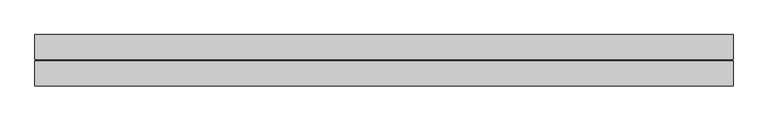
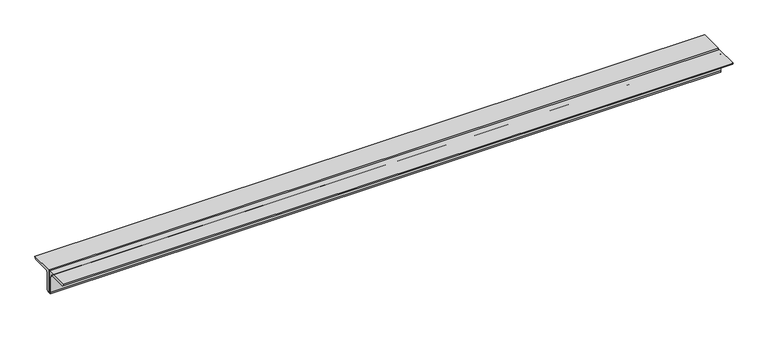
"""IFC4 building model written with IfcOpenShell, lengths in millimetres: beam geometry, Profilati doppi a L : DCED150x12."""

from ifc_helpers import new_model, si_unit, point, frame, frame_2d, origin, place, context, project, spatial, polyline, circle_curve, trimmed, segment, composite_curve, outline, extrude, source, transform, mapped, element, save


def beam_f6f99f5c(model_context):
    return source(origin(), model_context, "Body", "SweptSolid", [
        extrude(outline(composite_curve([segment(polyline([(-6.0, 42.4), (-6.0, -107.6)]), True, "CONTINUOUS"), segment(trimmed(circle_curve(frame_2d((-6.0, -92.6)), 15.0), [point((-6.0, -107.6))], [point((-21.0, -92.6))], False, "CARTESIAN"), True, "CONTINUOUS"), segment(polyline([(-21.0, -92.6), (-21.0, 12.4)]), True, "CONTINUOUS"), segment(trimmed(circle_curve(frame_2d((-36.0, 12.4)), 15.0), [point((-21.0, 12.4))], [point((-36.0, 27.4))], True, "CARTESIAN"), True, "CONTINUOUS"), segment(polyline([(-36.0, 27.4), (-141.0, 27.4)]), True, "CONTINUOUS"), segment(trimmed(circle_curve(frame_2d((-141.0, 42.4)), 15.0), [point((-141.0, 27.4))], [point((-156.0, 42.4))], False, "CARTESIAN"), True, "CONTINUOUS"), segment(polyline([(-156.0, 42.4), (-6.0, 42.4)]), True, "CONTINUOUS")], self_intersect=False)), frame((-1955.0, 0.0, 0.0), z_axis=(1.0, 0.0, 0.0), x_axis=(0.0, 1.0, 0.0)), (0.0, 0.0, 1.0), 4255.0),
        extrude(outline(composite_curve([segment(polyline([(6.0, 42.4), (156.0, 42.4)]), True, "CONTINUOUS"), segment(trimmed(circle_curve(frame_2d((141.0, 42.4)), 15.0), [point((156.0, 42.4))], [point((141.0, 27.4))], False, "CARTESIAN"), True, "CONTINUOUS"), segment(polyline([(141.0, 27.4), (36.0, 27.4)]), True, "CONTINUOUS"), segment(trimmed(circle_curve(frame_2d((36.0, 12.4)), 15.0), [point((36.0, 27.4))], [point((21.0, 12.4))], True, "CARTESIAN"), True, "CONTINUOUS"), segment(polyline([(21.0, 12.4), (21.0, -92.6)]), True, "CONTINUOUS"), segment(trimmed(circle_curve(frame_2d((6.0, -92.6)), 15.0), [point((21.0, -92.6))], [point((6.0, -107.6))], False, "CARTESIAN"), True, "CONTINUOUS"), segment(polyline([(6.0, -107.6), (6.0, 42.4)]), True, "CONTINUOUS")], self_intersect=False)), frame((-1955.0, 0.0, 0.0), z_axis=(1.0, 0.0, 0.0), x_axis=(0.0, 1.0, 0.0)), (0.0, 0.0, 1.0), 4255.0),
    ])


if __name__ == "__main__":
    model = new_model("IFC4")
    model_context = context("Model", 3, world=origin())
    ifc_project = project(units=[si_unit("LENGTHUNIT", "METRE", prefix="MILLI")], contexts=[model_context])
    site = spatial("IfcSite", under=ifc_project)
    building = spatial("IfcBuilding", under=site)
    placement = place(None, origin())
    beam_shape = beam_f6f99f5c(model_context)
    element("IfcBeam", 1, ObjectType="Profilati doppi a L : DCED150x12", at=placement, inside=building, context=model_context, shape_type="MappedRepresentation", body=[
        mapped(beam_shape, transform((0.0, 0.0, 0.0), x_axis=(1.0, 0.0, 0.0), y_axis=(0.0, 1.0, 0.0), z_axis=(0.0, 0.0, 1.0))),
    ])
    save(model, "model.ifc")
